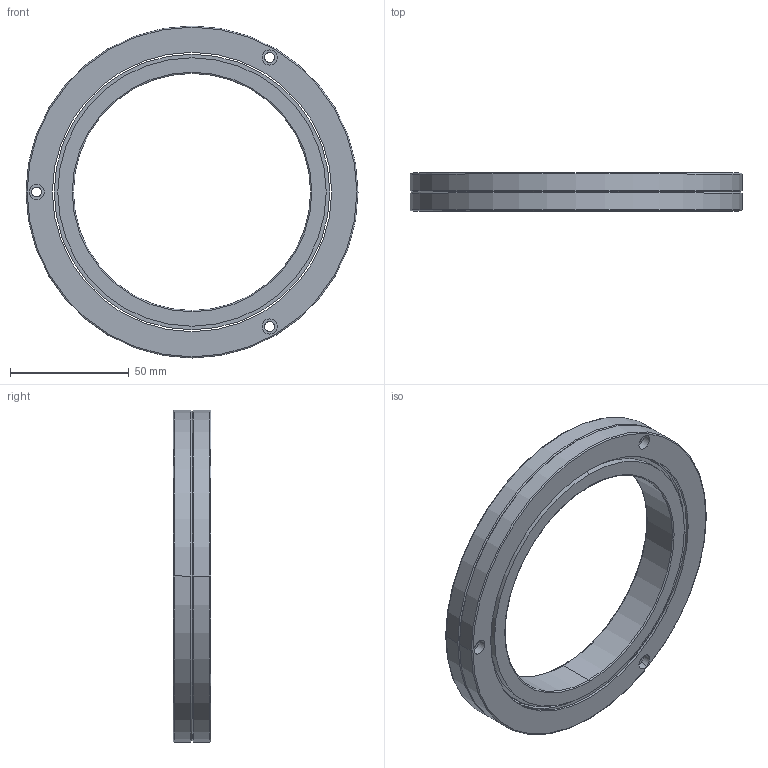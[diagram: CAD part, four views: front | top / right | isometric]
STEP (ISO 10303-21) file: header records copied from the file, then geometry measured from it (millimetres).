
FILE_DESCRIPTION((''),'2;1');
FILE_NAME('RB10016','2014-12-22T',('Administrator'),(''),'PRO/ENGINEER BY PARAMETRIC TECHNOLOGY CORPORATION, 2010180','PRO/ENGINEER BY PARAMETRIC TECHNOLOGY CORPORATION, 2010180','');
FILE_SCHEMA(('AUTOMOTIVE_DESIGN_CC2 { 1 2 10303 214 -1 1 5 2 }'));
Length unit declared in the file: millimetre
Products named in the file (1): RB10016
Bounding box: 140 x 16 x 140 mm (x, y, z)
Volume: 101906.6 mm3; surface area: 43932.1 mm2
Topology: 2 solids, 2 shells, 80 faces, 166 edges, 102 vertices
Faces by surface type: cylinder 44, plane 16, cone 12, torus 8
Entity records: 2263 total; most frequent: DIRECTION 436, CARTESIAN_POINT 348, ORIENTED_EDGE 332, AXIS2_PLACEMENT_3D 190, EDGE_CURVE 166, CIRCLE 110, VERTEX_POINT 102, EDGE_LOOP 102
